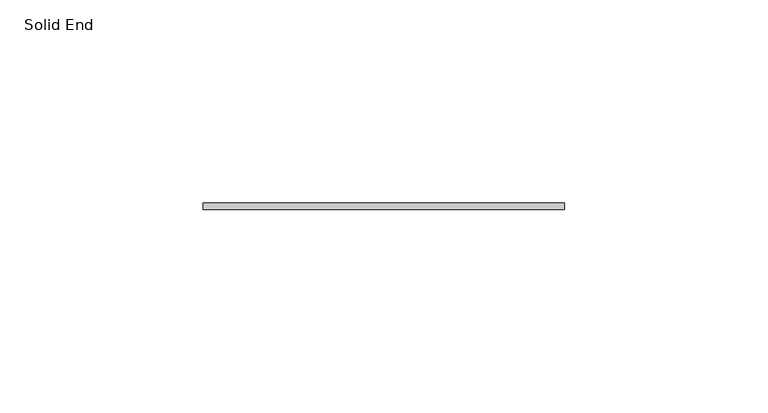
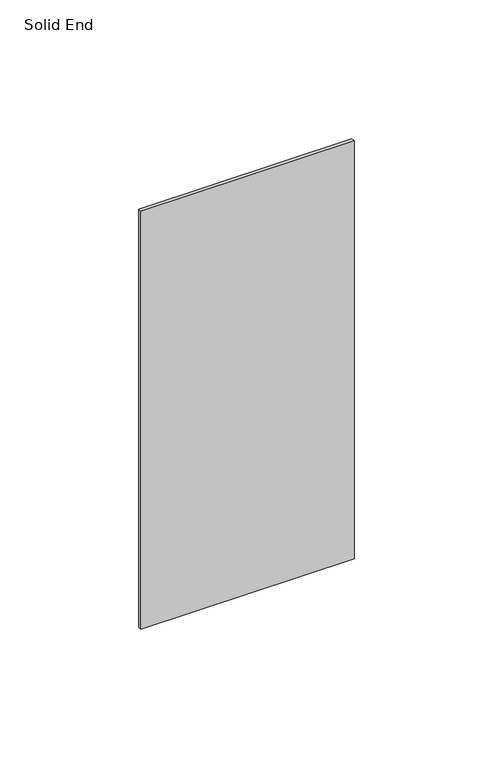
"""IFC4 building model written with IfcOpenShell, lengths in millimetres: proxy geometry, End Cap 1 -  L-Rectangular : Solid End."""

from ifc_helpers import new_model, si_unit, origin, origin_with_axes, place, context, project, spatial, polyline, outline, extrude, source, transform, mapped, element, save


def solid_end_b0bfbb77(model_context):
    return source(origin(), model_context, "Body", "SweptSolid", [
        extrude(outline(polyline([(44.45, 0.79375), (44.45, -0.79375), (-44.45, -0.79375), (-44.45, 0.79375), (44.45, 0.79375)])), origin_with_axes(), (0.0, 0.0, 1.0), 184.15),
    ])


if __name__ == "__main__":
    model = new_model("IFC4")
    model_context = context("Model", 3, world=origin())
    ifc_project = project(units=[si_unit("LENGTHUNIT", "METRE", prefix="MILLI")], contexts=[model_context])
    site = spatial("IfcSite", under=ifc_project)
    building = spatial("IfcBuilding", under=site)
    placement = place(None, origin())
    solid_end_shape = solid_end_b0bfbb77(model_context)
    element("IfcBuildingElementProxy", 1, Name="End Cap 1 -  L-Rectangular : Solid End", ObjectType="End Cap 1 -  L-Rectangular : Solid End", at=placement, inside=building, context=model_context, shape_type="MappedRepresentation", body=[
        mapped(solid_end_shape, transform((0.0, 0.0, 0.0), x_axis=(1.0, 0.0, 0.0), y_axis=(0.0, 1.0, 0.0), z_axis=(0.0, 0.0, 1.0))),
    ])
    save(model, "model.ifc")
